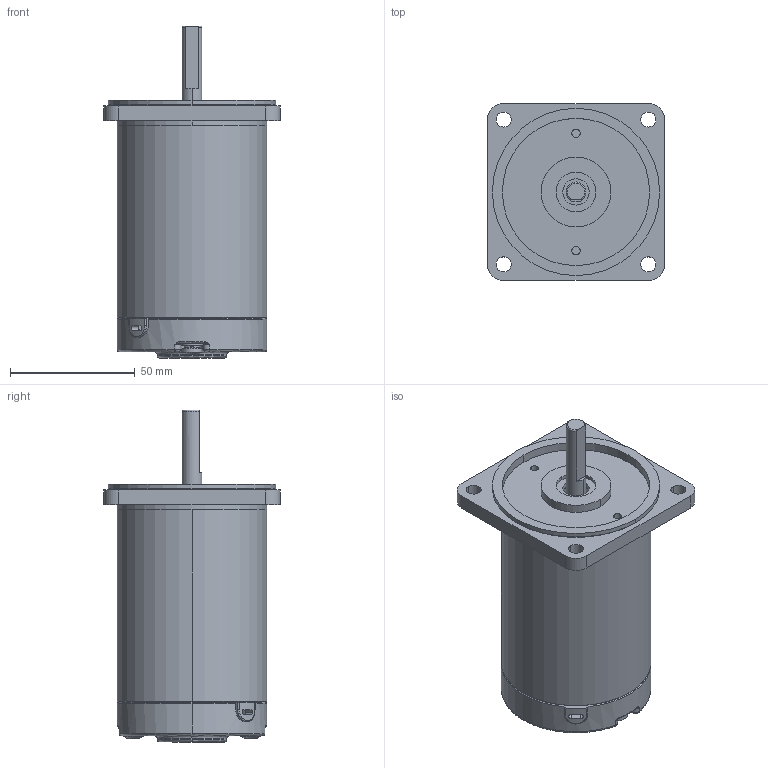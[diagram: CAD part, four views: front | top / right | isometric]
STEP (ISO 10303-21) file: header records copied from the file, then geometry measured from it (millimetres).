
FILE_DESCRIPTION (( 'STEP AP214' ), '1' );
FILE_NAME ('Z3D40W囀离77儂褲嫖萇儂.STEP', '2021-07-29T01:50:04', ( '' ), ( '' ), 'SwSTEP 2.0', 'SolidWorks 2021', '' );
FILE_SCHEMA (( 'AUTOMOTIVE_DESIGN' ));
Length unit declared in the file: millimetre
Products named in the file (9): Z3D40W囀离77儂褲嫖萇儂; 蚾饜极32^70 51儂褲囀离; PENGDIAN; z3d25-12gn-30s-019-00001m; HOUGAI; JIKE; LUDING; TANDIAN; 蚾饜极31^70 51儂褲囀离
Assembly tree (11 placements, depth 3):
  Z3D40W囀离77儂褲嫖萇儂
    蚾饜极31^70 51儂褲囀离
      LUDING
      TANDIAN
      PENGDIAN
    蚾饜极32^70 51儂褲囀离
      LUDING
      TANDIAN
      PENGDIAN
    HOUGAI
    JIKE
    z3d25-12gn-30s-019-00001m
Bounding box: 70.8 x 70.8 x 133 mm (x, y, z)
Volume: 84906.8 mm3; surface area: 55953.2 mm2
Topology: 10 solids, 10 shells, 286 faces, 677 edges, 420 vertices
Faces by surface type: cylinder 113, plane 75, cone 57, bspline 36, torus 5
Entity records: 8214 total; most frequent: CARTESIAN_POINT 2810, DIRECTION 1085, ORIENTED_EDGE 1050, EDGE_CURVE 525, AXIS2_PLACEMENT_3D 447, VERTEX_POINT 331, EDGE_LOOP 260, CIRCLE 242
